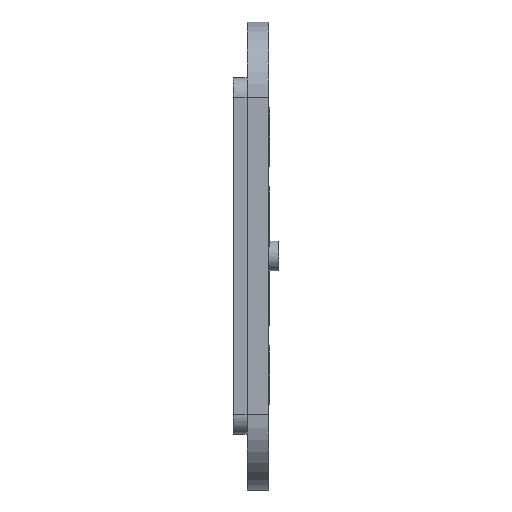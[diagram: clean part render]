
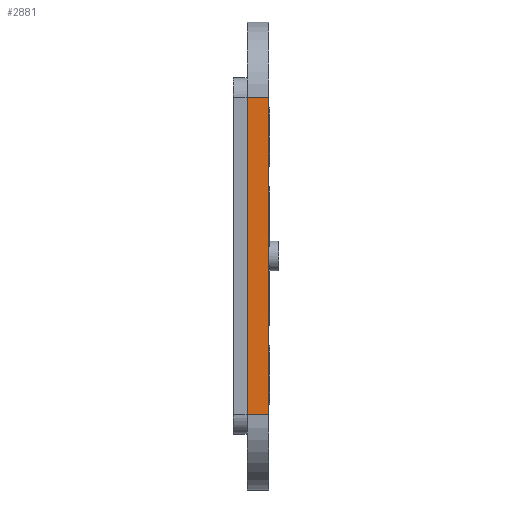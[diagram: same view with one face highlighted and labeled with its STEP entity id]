
A CAD part, left-side view. The second image highlights one B-rep face of the part: STEP entity #2881.
In plain terms, the highlighted planar face has unit normal (-1, 0, 0).
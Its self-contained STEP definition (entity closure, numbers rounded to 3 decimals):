
#800=DIRECTION('',(0.,-1.,0.));
#801=VECTOR('',#800,1.1);
#802=CARTESIAN_POINT('',(-11.798,10.5,-9.003));
#803=LINE('',#802,#801);
#804=DIRECTION('',(0.,0.,-1.));
#805=VECTOR('',#804,16.);
#806=CARTESIAN_POINT('',(-11.798,9.4,6.997));
#807=LINE('',#806,#805);
#808=DIRECTION('',(0.,0.,1.));
#809=VECTOR('',#808,16.);
#810=CARTESIAN_POINT('',(-11.798,10.5,-9.003));
#811=LINE('',#810,#809);
#812=DIRECTION('',(0.,1.,0.));
#813=VECTOR('',#812,1.1);
#814=CARTESIAN_POINT('',(-11.798,9.4,6.997));
#815=LINE('',#814,#813);
#1514=CARTESIAN_POINT('',(-11.798,10.5,6.997));
#1515=VERTEX_POINT('',#1514);
#1516=CARTESIAN_POINT('',(-11.798,10.5,-9.003));
#1517=VERTEX_POINT('',#1516);
#1544=CARTESIAN_POINT('',(-11.798,9.4,-9.003));
#1545=VERTEX_POINT('',#1544);
#1546=CARTESIAN_POINT('',(-11.798,9.4,6.997));
#1547=VERTEX_POINT('',#1546);
#2869=CARTESIAN_POINT('',(-11.798,9.1,6.997));
#2870=DIRECTION('',(-1.,0.,0.));
#2871=DIRECTION('',(0.,0.,-1.));
#2872=AXIS2_PLACEMENT_3D('',#2869,#2870,#2871);
#2873=PLANE('',#2872);
#2874=ORIENTED_EDGE('',*,*,#2098,.T.);
#2875=ORIENTED_EDGE('',*,*,#2864,.F.);
#2876=ORIENTED_EDGE('',*,*,#2040,.T.);
#2878=ORIENTED_EDGE('',*,*,#2877,.F.);
#2879=EDGE_LOOP('',(#2874,#2875,#2876,#2878));
#2880=FACE_OUTER_BOUND('',#2879,.F.);
#2881=ADVANCED_FACE('',(#2880),#2873,.T.);
#2040=EDGE_CURVE('',#1517,#1515,#811,.T.);
#2098=EDGE_CURVE('',#1547,#1545,#807,.T.);
#2864=EDGE_CURVE('',#1517,#1545,#803,.T.);
#2877=EDGE_CURVE('',#1547,#1515,#815,.T.);
